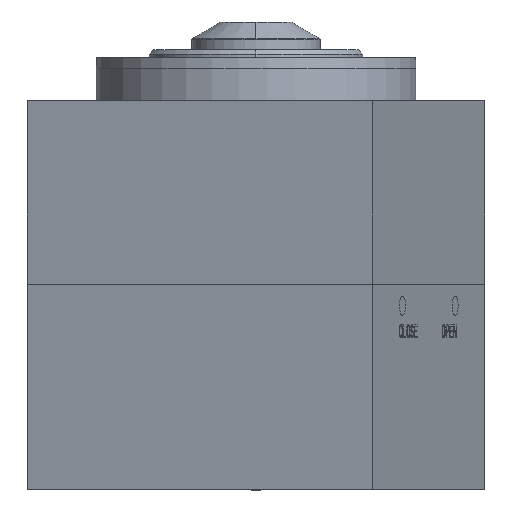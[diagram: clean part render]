
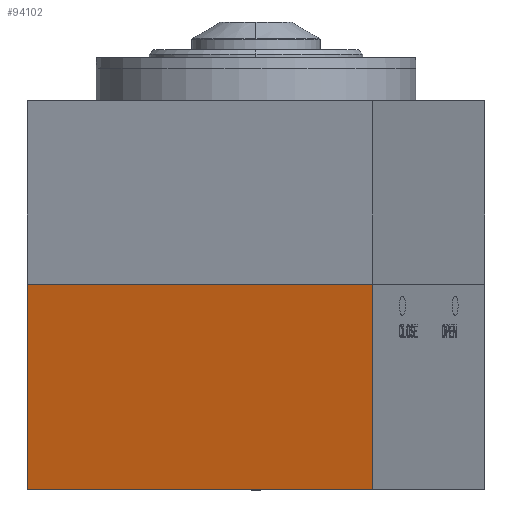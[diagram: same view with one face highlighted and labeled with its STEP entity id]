
A CAD part, left-side view. The second image highlights one B-rep face of the part: STEP entity #94102.
In plain terms, the highlighted planar face has unit normal (-0.951, 0.309, 0) as drawn and (-1, 0, 0) by its records, which use the part's own axes.
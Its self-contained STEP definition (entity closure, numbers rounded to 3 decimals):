
#85322=DIRECTION('',(0.,0.,-1.));
#85323=VECTOR('',#85322,170.);
#85324=CARTESIAN_POINT('',(-85.,0.,85.));
#85325=LINE('',#85324,#85323);
#85697=DIRECTION('',(0.,1.,0.));
#85698=VECTOR('',#85697,96.);
#85699=CARTESIAN_POINT('',(-85.,-96.,85.));
#85700=LINE('',#85699,#85698);
#87684=DIRECTION('',(0.,0.,-1.));
#87685=VECTOR('',#87684,170.);
#87686=CARTESIAN_POINT('',(-85.,-96.,85.));
#87687=LINE('',#87686,#87685);
#87712=DIRECTION('',(0.,1.,0.));
#87713=VECTOR('',#87712,96.);
#87714=CARTESIAN_POINT('',(-85.,-96.,-85.));
#87715=LINE('',#87714,#87713);
#91554=CARTESIAN_POINT('',(-85.,0.,85.));
#91555=CARTESIAN_POINT('',(-85.,0.,-85.));
#91556=VERTEX_POINT('',#91554);
#91557=VERTEX_POINT('',#91555);
#91562=CARTESIAN_POINT('',(-85.,-96.,85.));
#91563=CARTESIAN_POINT('',(-85.,-96.,-85.));
#91564=VERTEX_POINT('',#91562);
#91565=VERTEX_POINT('',#91563);
#94091=CARTESIAN_POINT('',(-85.,0.,-85.));
#94092=DIRECTION('',(-1.,0.,0.));
#94093=DIRECTION('',(0.,0.,1.));
#94094=AXIS2_PLACEMENT_3D('',#94091,#94092,#94093);
#94095=PLANE('',#94094);
#94096=ORIENTED_EDGE('',*,*,#92735,.F.);
#94097=ORIENTED_EDGE('',*,*,#93174,.F.);
#94098=ORIENTED_EDGE('',*,*,#94067,.T.);
#94099=ORIENTED_EDGE('',*,*,#93805,.T.);
#94100=EDGE_LOOP('',(#94096,#94097,#94098,#94099));
#94101=FACE_OUTER_BOUND('',#94100,.F.);
#94102=ADVANCED_FACE('',(#94101),#94095,.T.);
#92735=EDGE_CURVE('',#91556,#91557,#85325,.T.);
#93174=EDGE_CURVE('',#91564,#91556,#85700,.T.);
#93805=EDGE_CURVE('',#91565,#91557,#87715,.T.);
#94067=EDGE_CURVE('',#91564,#91565,#87687,.T.);
